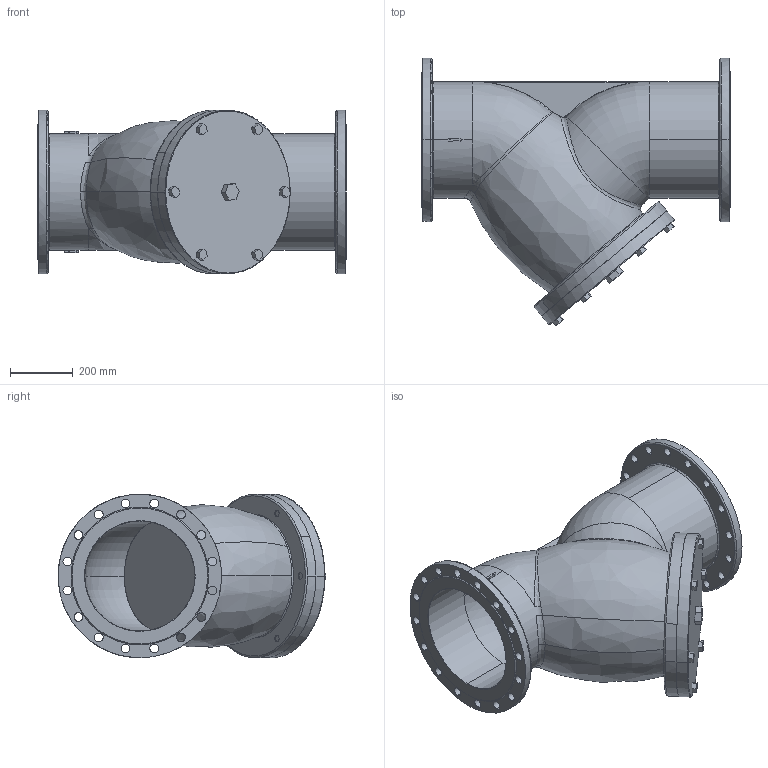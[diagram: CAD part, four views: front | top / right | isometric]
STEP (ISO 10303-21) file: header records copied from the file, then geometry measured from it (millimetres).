
FILE_DESCRIPTION (( 'STEP AP203' ), '1' );
FILE_NAME ('F3240-DN350.STEP', '2017-04-23T08:33:51', ( 'User' ), ( 'shendu' ), 'SwSTEP 2.0', 'SolidWorks 2015', '' );
FILE_SCHEMA (( 'CONFIG_CONTROL_DESIGN' ));
Length unit declared in the file: millimetre
Products named in the file (1): F3240-DN350
Bounding box: 980 x 851.8 x 520 mm (x, y, z)
Volume: 74739354.2 mm3; surface area: 4777751.9 mm2
Topology: 12 solids, 12 shells, 354 faces, 910 edges, 591 vertices
Faces by surface type: cylinder 151, plane 116, bspline 56, torus 18, cone 13
Full cylindrical faces by diameter (mm): 360 x1, 380 x1
Entity records: 32522 total; most frequent: CARTESIAN_POINT 24271, ORIENTED_EDGE 1808, DIRECTION 1459, EDGE_CURVE 904, VERTEX_POINT 593, AXIS2_PLACEMENT_3D 559, EDGE_LOOP 471, ADVANCED_FACE 354
